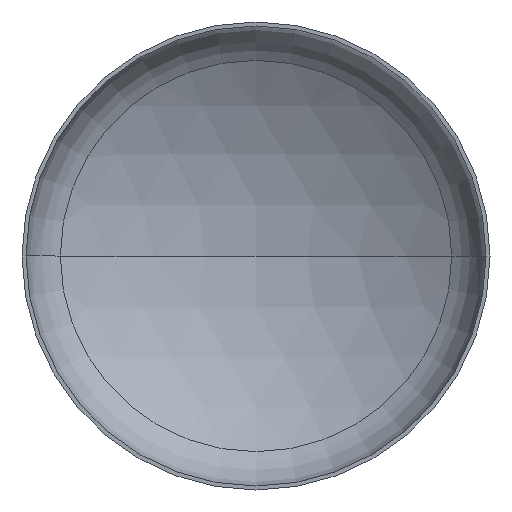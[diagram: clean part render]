
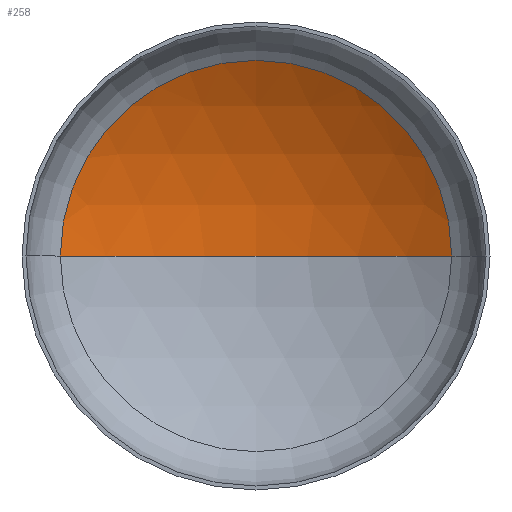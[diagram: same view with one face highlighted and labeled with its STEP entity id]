
A CAD part, front view. The second image highlights one B-rep face of the part: STEP entity #258.
In plain terms, the highlighted spherical face has radius 3200 mm.
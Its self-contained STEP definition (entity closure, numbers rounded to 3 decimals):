
#2 = DIRECTION ( 'NONE',  ( 1., 0., 0. ) ) ;
#20 = EDGE_LOOP ( 'NONE', ( #32, #224, #352 ) ) ;
#32 = ORIENTED_EDGE ( 'NONE', *, *, #98, .F. ) ;
#34 = AXIS2_PLACEMENT_3D ( 'NONE', #234, #195, #49 ) ;
#46 = AXIS2_PLACEMENT_3D ( 'NONE', #285, #73, #2 ) ;
#49 = DIRECTION ( 'NONE',  ( -1., 0., 0. ) ) ;
#50 = AXIS2_PLACEMENT_3D ( 'NONE', #191, #168, #169 ) ;
#51 = AXIS2_PLACEMENT_3D ( 'NONE', #206, #204, #205 ) ;
#73 = DIRECTION ( 'NONE',  ( 0., 0., 1. ) ) ;
#77 = VERTEX_POINT ( 'NONE', #225 ) ;
#94 = EDGE_CURVE ( 'NONE', #161, #77, #326, .T. ) ;
#97 = EDGE_CURVE ( 'NONE', #154, #161, #266, .T. ) ;
#98 = EDGE_CURVE ( 'NONE', #154, #77, #183, .T. ) ;
#154 = VERTEX_POINT ( 'NONE', #200 ) ;
#161 = VERTEX_POINT ( 'NONE', #202 ) ;
#168 = DIRECTION ( 'NONE',  ( 0., 0., -1. ) ) ;
#169 = DIRECTION ( 'NONE',  ( -1., 0., 0. ) ) ;
#183 = CIRCLE ( 'NONE', #46, 3200. ) ;
#191 = CARTESIAN_POINT ( 'NONE',  ( 0., -2093.866, 0. ) ) ;
#195 = DIRECTION ( 'NONE',  ( 0., 0., -1. ) ) ;
#200 = CARTESIAN_POINT ( 'NONE',  ( 0., 1106.134, 0. ) ) ;
#202 = CARTESIAN_POINT ( 'NONE',  ( 1672.418, 634.324, 0. ) ) ;
#204 = DIRECTION ( 'NONE',  ( 0., -1., 0. ) ) ;
#205 = DIRECTION ( 'NONE',  ( 1., 0., 0. ) ) ;
#206 = CARTESIAN_POINT ( 'NONE',  ( 0., 634.324, 0. ) ) ;
#224 = ORIENTED_EDGE ( 'NONE', *, *, #97, .T. ) ;
#225 = CARTESIAN_POINT ( 'NONE',  ( -1672.418, 634.324, 0. ) ) ;
#234 = CARTESIAN_POINT ( 'NONE',  ( 0., -2093.866, 0. ) ) ;
#258 = ADVANCED_FACE ( 'NONE', ( #305 ), #378, .F. ) ;
#266 = CIRCLE ( 'NONE', #50, 3200. ) ;
#285 = CARTESIAN_POINT ( 'NONE',  ( 0., -2093.866, 0. ) ) ;
#305 = FACE_OUTER_BOUND ( 'NONE', #20, .T. ) ;
#326 = CIRCLE ( 'NONE', #51, 1672.418 ) ;
#352 = ORIENTED_EDGE ( 'NONE', *, *, #94, .T. ) ;
#378 = SPHERICAL_SURFACE ( 'NONE', #34, 3200. ) ;
